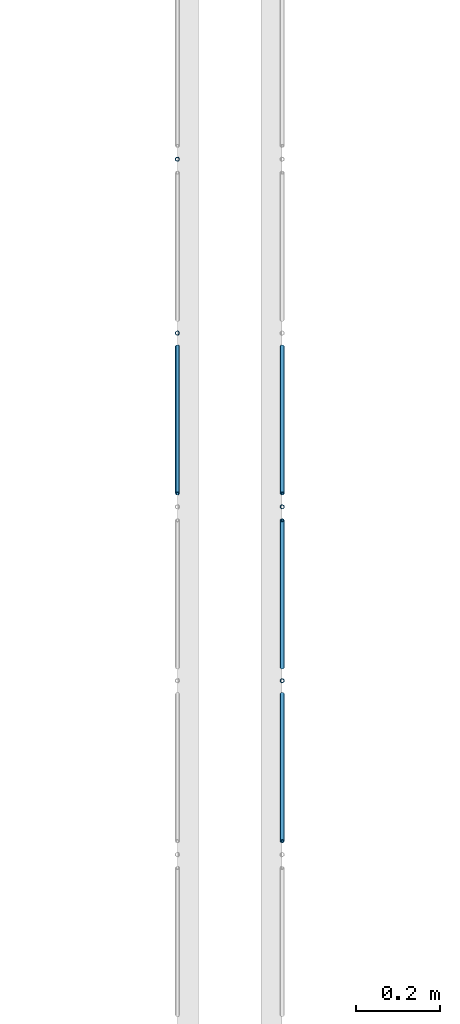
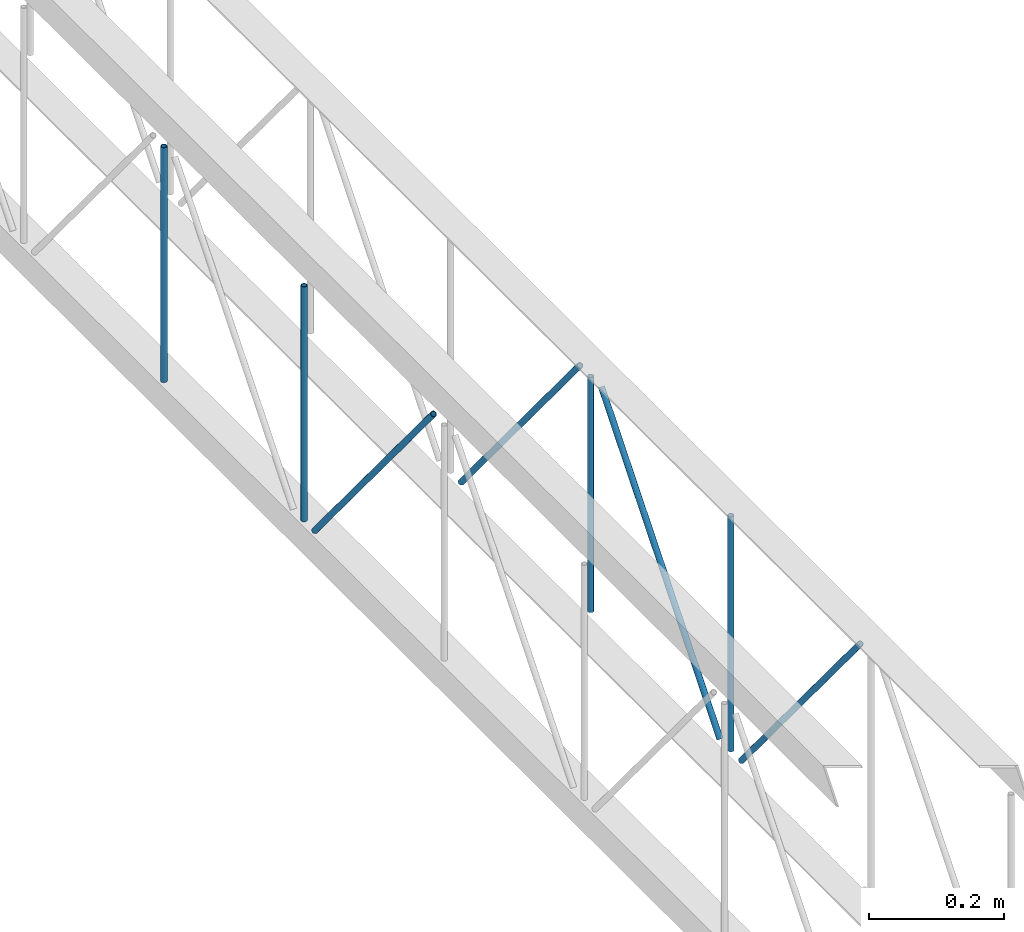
# One storey, part 27 of 153: 8 members, 2 elements without a shape of their own.
"""IFC4 building model written with IfcOpenShell, lengths in metres."""

from ifc_helpers import new_model, entity, si_unit, converted_unit, derived_unit, direction, frame, origin, place, context, subcontext, project, spatial, arc, indexed_curve, outline, extrude, source, transform, mapped, material, type_object, type_shapes, element, aggregate, save


model = new_model("IFC4")

# Units and contexts
model_context = context("Model", 3, precision=1e-05, world=origin(), true_north=direction((6.123031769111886e-17, 1.0)))
body_context = subcontext(model_context, "Body", "Model", "MODEL_VIEW")
ifc_project = project(units=[si_unit("LENGTHUNIT", "METRE"), si_unit("AREAUNIT", "SQUARE_METRE"), si_unit("VOLUMEUNIT", "CUBIC_METRE"), converted_unit("PLANEANGLEUNIT", "DEGREE", entity("IfcRatioMeasure", 0.017453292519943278), si_unit("PLANEANGLEUNIT", "RADIAN"), dimensions=[0, 0, 0, 0, 0, 0, 0]), si_unit("MASSUNIT", "GRAM", prefix="KILO"), derived_unit("MASSDENSITYUNIT", [(si_unit("MASSUNIT", "GRAM", prefix="KILO"), 1), (si_unit("LENGTHUNIT", "METRE"), -3)]), derived_unit("MOMENTOFINERTIAUNIT", [(si_unit("LENGTHUNIT", "METRE"), 4)]), si_unit("TIMEUNIT", "SECOND"), si_unit("FREQUENCYUNIT", "HERTZ"), si_unit("THERMODYNAMICTEMPERATUREUNIT", "DEGREE_CELSIUS"), derived_unit("THERMALTRANSMITTANCEUNIT", [(si_unit("MASSUNIT", "GRAM", prefix="KILO"), 1), (si_unit("THERMODYNAMICTEMPERATUREUNIT", "KELVIN"), -1), (si_unit("TIMEUNIT", "SECOND"), -3)]), derived_unit("VOLUMETRICFLOWRATEUNIT", [(si_unit("LENGTHUNIT", "METRE"), 3), (si_unit("TIMEUNIT", "SECOND"), -1)]), derived_unit("MASSFLOWRATEUNIT", [(si_unit("MASSUNIT", "GRAM", prefix="KILO"), 1), (si_unit("TIMEUNIT", "SECOND"), -1)]), derived_unit("ROTATIONALFREQUENCYUNIT", [(si_unit("TIMEUNIT", "SECOND"), -1)]), si_unit("ELECTRICCURRENTUNIT", "AMPERE"), si_unit("ELECTRICVOLTAGEUNIT", "VOLT"), si_unit("POWERUNIT", "WATT"), si_unit("FORCEUNIT", "NEWTON", prefix="KILO"), si_unit("ILLUMINANCEUNIT", "LUX"), si_unit("LUMINOUSFLUXUNIT", "LUMEN"), si_unit("LUMINOUSINTENSITYUNIT", "CANDELA"), derived_unit("USERDEFINED", [(si_unit("MASSUNIT", "GRAM", prefix="KILO"), -1), (si_unit("LENGTHUNIT", "METRE"), -2), (si_unit("TIMEUNIT", "SECOND"), 3), (si_unit("LUMINOUSFLUXUNIT", "LUMEN"), 1)]), derived_unit("SOUNDPOWERUNIT", [(si_unit("MASSUNIT", "GRAM", prefix="KILO"), 1), (si_unit("LENGTHUNIT", "METRE"), 2), (si_unit("TIMEUNIT", "SECOND"), -3)]), derived_unit("SOUNDPRESSUREUNIT", [(si_unit("MASSUNIT", "GRAM", prefix="KILO"), 1), (si_unit("LENGTHUNIT", "METRE"), -1), (si_unit("TIMEUNIT", "SECOND"), -2)]), derived_unit("LINEARVELOCITYUNIT", [(si_unit("LENGTHUNIT", "METRE"), 1), (si_unit("TIMEUNIT", "SECOND"), -1)]), si_unit("PRESSUREUNIT", "PASCAL"), derived_unit("USERDEFINED", [(si_unit("LENGTHUNIT", "METRE"), -2), (si_unit("MASSUNIT", "GRAM", prefix="KILO"), 1), (si_unit("TIMEUNIT", "SECOND"), -2)]), derived_unit("LINEARFORCEUNIT", [(si_unit("MASSUNIT", "GRAM", prefix="KILO"), 1), (si_unit("LENGTHUNIT", "METRE"), 1), (si_unit("TIMEUNIT", "SECOND"), -2), (si_unit("LENGTHUNIT", "METRE"), -1)]), derived_unit("PLANARFORCEUNIT", [(si_unit("MASSUNIT", "GRAM", prefix="KILO"), 1), (si_unit("LENGTHUNIT", "METRE"), 1), (si_unit("TIMEUNIT", "SECOND"), -2), (si_unit("LENGTHUNIT", "METRE"), -2)])], contexts=[model_context])

# Site, building, storey
site_placement = place(None, origin())
site = spatial("IfcSite", under=ifc_project, at=site_placement, Name="Superficie", CompositionType="ELEMENT")
building_placement = place(site_placement, origin())
building = spatial("IfcBuilding", under=site, at=building_placement, CompositionType="ELEMENT")
storey_placement = place(building_placement, frame((0.0, 0.0, 3.5999999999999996)))
storey = spatial("IfcBuildingStorey", under=building, at=storey_placement, Name="Nivel 1", CompositionType="ELEMENT", Elevation=3.5999999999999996)

# Assembly, members
assembly_1_placement = place(storey_placement, origin())
assembly_1 = element("IfcElementAssembly", 1, at=assembly_1_placement, inside=storey, Name="Viga de celosia 13:Viga de celosia 13", ObjectType="Viga de celosia 13:Viga de celosia 13", AssemblyPlace="NOTDEFINED", PredefinedType="TRUSS")
ifc_material = material(Name="Metal - Calibre delgado", Category="Metal")
member_type_1 = type_object("IfcMemberType", Name="HSS-Tubo estructural redondo:HSS 0.01", PredefinedType="BRACE", material=ifc_material)
shared_shape_1 = source(origin(), body_context, "Body", "SweptSolid", [
    extrude(outline(indexed_curve([(-0.005000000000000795, 7.502054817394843e-18), (-9.800269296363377e-18, -0.005000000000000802), (0.005000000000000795, -7.502054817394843e-18), (8.07772287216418e-18, 0.005000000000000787)], segments=[arc(1, 2, 3), arc(3, 4, 1)], self_intersect=False), holes=[indexed_curve([(0.003999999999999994, 7.222511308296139e-17), (6.910645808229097e-17, -0.004000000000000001), (-0.003999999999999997, -1.8650054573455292e-17), (-2.9156497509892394e-17, 0.003999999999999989)], segments=[arc(1, 2, 3), arc(3, 4, 1)], self_intersect=False)]), frame((-0.21200000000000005, 0.0, 0.0), z_axis=(1.0, 0.0, 0.0), x_axis=(0.0, 1.0, 0.0)), (0.0, 0.0, 1.0), 0.4240000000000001),
])
type_shapes(member_type_1, [shared_shape_1])
member_1_placement = place(assembly_1_placement, frame((-13.813200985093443, -7.062721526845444, 0.25), z_axis=(0.0, 1.0, 0.0), x_axis=(0.0, 0.0, 1.0)))
member_1 = element("IfcMember", 2, at=member_1_placement, type_object=member_type_1, material=ifc_material, Name="HSS-Tubo estructural redondo:HSS 0.01", ObjectType="HSS-Tubo estructural redondo:HSS 0.01", PredefinedType="BRACE", context=body_context, shape_type="MappedRepresentation", body=[
    mapped(shared_shape_1, transform((0.0, 0.0, 0.0), scale=1.0)),
])
member_2_placement = place(assembly_1_placement, frame((-13.813200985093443, -6.64837544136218, 0.25), z_axis=(0.0, 1.0, 0.0), x_axis=(0.0, 0.0, 1.0)))
member_2 = element("IfcMember", 3, at=member_2_placement, type_object=member_type_1, material=ifc_material, Name="HSS-Tubo estructural redondo:HSS 0.01", ObjectType="HSS-Tubo estructural redondo:HSS 0.01", PredefinedType="BRACE", context=body_context, shape_type="MappedRepresentation", body=[
    mapped(shared_shape_1, transform((0.0, 0.0, 0.0), scale=1.0)),
])
member_type_2 = type_object("IfcMemberType", Name="HSS-Tubo estructural redondo:HSS 0.01", PredefinedType="BRACE", material=ifc_material)
shared_shape_2 = source(origin(), body_context, "Body", "SweptSolid", [
    extrude(outline(indexed_curve([(-0.005000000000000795, 7.502054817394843e-18), (-9.800269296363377e-18, -0.005000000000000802), (0.005000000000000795, -7.502054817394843e-18), (8.07772287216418e-18, 0.005000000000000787)], segments=[arc(1, 2, 3), arc(3, 4, 1)], self_intersect=False), holes=[indexed_curve([(0.003999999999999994, 7.222511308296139e-17), (6.910645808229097e-17, -0.004000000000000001), (-0.003999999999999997, -1.8650054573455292e-17), (-2.9156497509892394e-17, 0.003999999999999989)], segments=[arc(1, 2, 3), arc(3, 4, 1)], self_intersect=False)]), frame((-0.275, 0.0, 0.0), z_axis=(1.0, 0.0, 0.0), x_axis=(0.0, 1.0, 0.0)), (0.0, 0.0, 1.0), 0.55),
])
type_shapes(member_type_2, [shared_shape_2])
member_3_placement = place(assembly_1_placement, frame((-13.813200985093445, -7.269894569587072, 0.24999999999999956), z_axis=(0.0, -0.7699758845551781, -0.6380729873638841), x_axis=(0.0, 0.6380729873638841, -0.7699758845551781)))
member_3 = element("IfcMember", 4, at=member_3_placement, type_object=member_type_2, material=ifc_material, Name="HSS-Tubo estructural redondo:HSS 0.01", ObjectType="HSS-Tubo estructural redondo:HSS 0.01", PredefinedType="BRACE", context=body_context, shape_type="MappedRepresentation", body=[
    mapped(shared_shape_2, transform((0.0, 0.0, 0.0), scale=1.0)),
])
aggregate(assembly_1, [member_1, member_2, member_3])

assembly_2_placement = place(storey_placement, origin())
assembly_2 = element("IfcElementAssembly", 5, at=assembly_2_placement, inside=storey, Name="Viga de celosia 13:Viga de celosia 13", ObjectType="Viga de celosia 13:Viga de celosia 13", AssemblyPlace="NOTDEFINED", PredefinedType="TRUSS")
member_type_3 = type_object("IfcMemberType", Name="HSS-Tubo estructural redondo:HSS 0.01", PredefinedType="BRACE", material=ifc_material)
shared_shape_3 = source(origin(), body_context, "Body", "SweptSolid", [
    extrude(outline(indexed_curve([(-0.005000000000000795, 2.0824731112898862e-17), (-2.3122945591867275e-17, -0.005000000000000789), (0.005000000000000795, -2.08247311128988e-17), (2.14003991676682e-17, 0.005000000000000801)], segments=[arc(1, 2, 3), arc(3, 4, 1)], self_intersect=False), holes=[indexed_curve([(0.003999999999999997, -1.3094283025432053e-17), (-1.531427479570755e-18, -0.003999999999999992), (-0.004, 4.0098531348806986e-17), (4.1481388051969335e-17, 0.0039999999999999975)], segments=[arc(1, 2, 3), arc(3, 4, 1)], self_intersect=False)]), frame((-0.21200000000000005, 0.0, 0.0), z_axis=(1.0, 0.0, 0.0), x_axis=(0.0, -1.0, 0.0)), (0.0, 0.0, 1.0), 0.4240000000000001),
])
type_shapes(member_type_3, [shared_shape_3])
member_4_placement = place(assembly_2_placement, frame((-13.56320098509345, -7.891413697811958, 0.25), z_axis=(0.0, 1.0, 0.0), x_axis=(0.0, 0.0, 1.0)))
member_4 = element("IfcMember", 6, at=member_4_placement, type_object=member_type_3, material=ifc_material, Name="HSS-Tubo estructural redondo:HSS 0.01", ObjectType="HSS-Tubo estructural redondo:HSS 0.01", PredefinedType="BRACE", context=body_context, shape_type="MappedRepresentation", body=[
    mapped(shared_shape_3, transform((0.0, 0.0, 0.0), scale=1.0)),
])
member_5_placement = place(assembly_2_placement, frame((-13.56320098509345, -7.477067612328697, 0.25), z_axis=(0.0, 1.0, 0.0), x_axis=(0.0, 0.0, 1.0)))
member_5 = element("IfcMember", 7, at=member_5_placement, type_object=member_type_3, material=ifc_material, Name="HSS-Tubo estructural redondo:HSS 0.01", ObjectType="HSS-Tubo estructural redondo:HSS 0.01", PredefinedType="BRACE", context=body_context, shape_type="MappedRepresentation", body=[
    mapped(shared_shape_3, transform((0.0, 0.0, 0.0), scale=1.0)),
])
member_type_4 = type_object("IfcMemberType", Name="HSS-Tubo estructural redondo:HSS 0.01", PredefinedType="BRACE", material=ifc_material)
shared_shape_4 = source(origin(), body_context, "Body", "SweptSolid", [
    extrude(outline(indexed_curve([(-0.005000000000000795, 2.0824731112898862e-17), (-2.3122945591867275e-17, -0.005000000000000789), (0.005000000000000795, -2.08247311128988e-17), (2.14003991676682e-17, 0.005000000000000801)], segments=[arc(1, 2, 3), arc(3, 4, 1)], self_intersect=False), holes=[indexed_curve([(0.003999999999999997, -1.3094283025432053e-17), (-1.531427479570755e-18, -0.003999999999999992), (-0.004, 4.0098531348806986e-17), (4.1481388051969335e-17, 0.0039999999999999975)], segments=[arc(1, 2, 3), arc(3, 4, 1)], self_intersect=False)]), frame((-0.275, 0.0, 0.0), z_axis=(1.0, 0.0, 0.0), x_axis=(0.0, -1.0, 0.0)), (0.0, 0.0, 1.0), 0.55),
])
type_shapes(member_type_4, [shared_shape_4])
member_6_placement = place(assembly_2_placement, frame((-13.56320098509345, -8.098586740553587, 0.25), z_axis=(0.0, -0.7699758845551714, -0.638072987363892), x_axis=(0.0, 0.638072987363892, -0.7699758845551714)))
member_6 = element("IfcMember", 8, at=member_6_placement, type_object=member_type_4, material=ifc_material, Name="HSS-Tubo estructural redondo:HSS 0.01", ObjectType="HSS-Tubo estructural redondo:HSS 0.01", PredefinedType="BRACE", context=body_context, shape_type="MappedRepresentation", body=[
    mapped(shared_shape_4, transform((0.0, 0.0, 0.0), scale=1.0)),
])
member_7_placement = place(assembly_2_placement, frame((-13.56320098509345, -7.684240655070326, 0.25000000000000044), z_axis=(0.0, 0.7699758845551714, -0.638072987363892), x_axis=(0.0, 0.638072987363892, 0.7699758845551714)))
member_7 = element("IfcMember", 9, at=member_7_placement, type_object=member_type_4, material=ifc_material, Name="HSS-Tubo estructural redondo:HSS 0.01", ObjectType="HSS-Tubo estructural redondo:HSS 0.01", PredefinedType="BRACE", context=body_context, shape_type="MappedRepresentation", body=[
    mapped(shared_shape_4, transform((0.0, 0.0, 0.0), scale=1.0)),
])
member_8_placement = place(assembly_2_placement, frame((-13.56320098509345, -7.269894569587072, 0.24999999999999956), z_axis=(0.0, -0.7699758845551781, -0.6380729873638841), x_axis=(0.0, 0.6380729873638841, -0.7699758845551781)))
member_8 = element("IfcMember", 10, at=member_8_placement, type_object=member_type_4, material=ifc_material, Name="HSS-Tubo estructural redondo:HSS 0.01", ObjectType="HSS-Tubo estructural redondo:HSS 0.01", PredefinedType="BRACE", context=body_context, shape_type="MappedRepresentation", body=[
    mapped(shared_shape_4, transform((0.0, 0.0, 0.0), scale=1.0)),
])
aggregate(assembly_2, [member_4, member_5, member_6, member_7, member_8])

save(model, "model.ifc")
